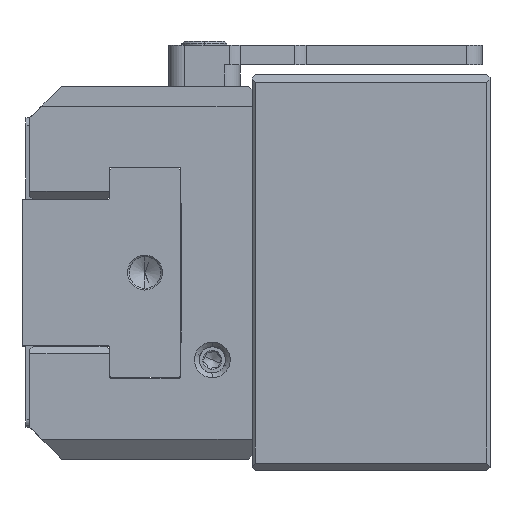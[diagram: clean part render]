
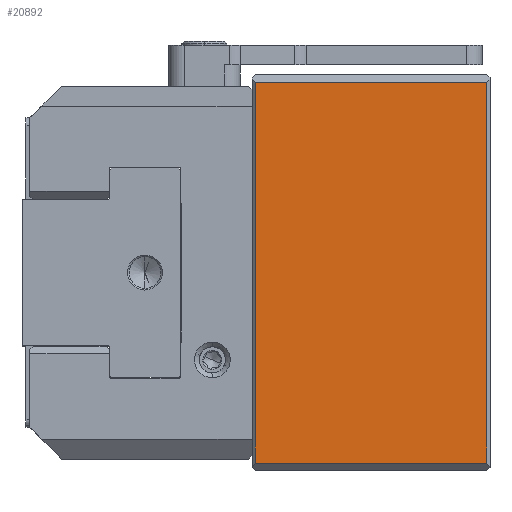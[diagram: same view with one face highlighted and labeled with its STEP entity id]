
A CAD part, left-side view. The second image highlights one B-rep face of the part: STEP entity #20892.
In plain terms, the highlighted planar face has unit normal (-1, 0, 0).
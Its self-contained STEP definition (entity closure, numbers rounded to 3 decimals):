
#530 = AXIS2_PLACEMENT_3D ( 'NONE', #3963, #39391, #57178 ) ;
#3963 = CARTESIAN_POINT ( 'NONE',  ( -40.5, -30., 24. ) ) ;
#6679 = VECTOR ( 'NONE', #49913, 1000. ) ;
#8316 = PLANE ( 'NONE',  #530 ) ;
#9168 = CARTESIAN_POINT ( 'NONE',  ( -40.5, -30., 24. ) ) ;
#12639 = VERTEX_POINT ( 'NONE', #41797 ) ;
#13754 = CARTESIAN_POINT ( 'NONE',  ( -40.5, -0.4, 24. ) ) ;
#14313 = CARTESIAN_POINT ( 'NONE',  ( -40.5, -0.4, -24. ) ) ;
#14769 = EDGE_LOOP ( 'NONE', ( #29994, #39833, #21215, #15656 ) ) ;
#14832 = LINE ( 'NONE', #46264, #34635 ) ;
#15127 = EDGE_CURVE ( 'NONE', #49660, #19865, #18747, .T. ) ;
#15656 = ORIENTED_EDGE ( 'NONE', *, *, #35013, .T. ) ;
#17187 = EDGE_CURVE ( 'NONE', #17963, #49660, #14832, .T. ) ;
#17963 = VERTEX_POINT ( 'NONE', #33147 ) ;
#18108 = DIRECTION ( 'NONE',  ( 0., 0., -1. ) ) ;
#18747 = LINE ( 'NONE', #9168, #6679 ) ;
#19865 = VERTEX_POINT ( 'NONE', #13754 ) ;
#20086 = CARTESIAN_POINT ( 'NONE',  ( -40.5, -29.6, 24. ) ) ;
#20100 = CARTESIAN_POINT ( 'NONE',  ( -40.5, -30., -24. ) ) ;
#20892 = ADVANCED_FACE ( 'NONE', ( #52545 ), #8316, .T. ) ;
#21215 = ORIENTED_EDGE ( 'NONE', *, *, #15127, .T. ) ;
#22868 = VECTOR ( 'NONE', #18108, 1000. ) ;
#28801 = DIRECTION ( 'NONE',  ( 0., 1., 0. ) ) ;
#29994 = ORIENTED_EDGE ( 'NONE', *, *, #43635, .F. ) ;
#30890 = LINE ( 'NONE', #14313, #22868 ) ;
#33147 = CARTESIAN_POINT ( 'NONE',  ( -40.5, -29.6, -24. ) ) ;
#33170 = LINE ( 'NONE', #20100, #35298 ) ;
#34635 = VECTOR ( 'NONE', #54437, 1000. ) ;
#35013 = EDGE_CURVE ( 'NONE', #19865, #12639, #30890, .T. ) ;
#35298 = VECTOR ( 'NONE', #28801, 1000. ) ;
#39391 = DIRECTION ( 'NONE',  ( -1., 0., 0. ) ) ;
#39833 = ORIENTED_EDGE ( 'NONE', *, *, #17187, .T. ) ;
#41797 = CARTESIAN_POINT ( 'NONE',  ( -40.5, -0.4, -24. ) ) ;
#43635 = EDGE_CURVE ( 'NONE', #17963, #12639, #33170, .T. ) ;
#46264 = CARTESIAN_POINT ( 'NONE',  ( -40.5, -29.6, 24. ) ) ;
#49660 = VERTEX_POINT ( 'NONE', #20086 ) ;
#49913 = DIRECTION ( 'NONE',  ( 0., 1., 0. ) ) ;
#52545 = FACE_OUTER_BOUND ( 'NONE', #14769, .T. ) ;
#54437 = DIRECTION ( 'NONE',  ( 0., 0., 1. ) ) ;
#57178 = DIRECTION ( 'NONE',  ( 0., 0., 1. ) ) ;
